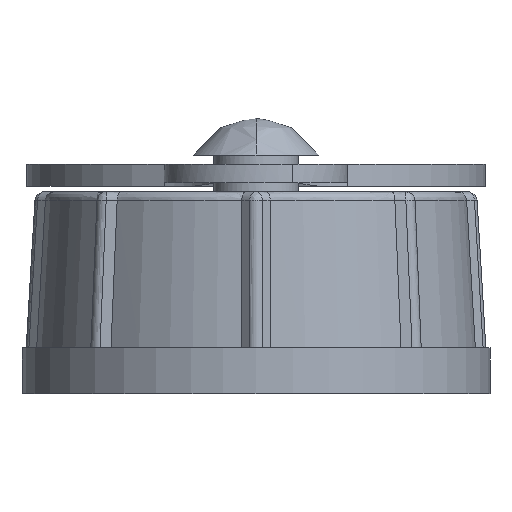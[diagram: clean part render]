
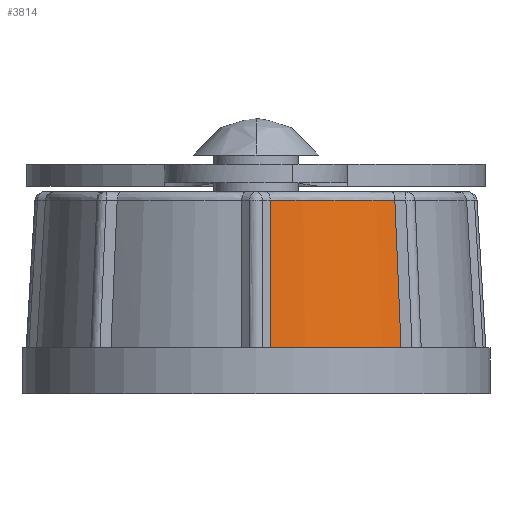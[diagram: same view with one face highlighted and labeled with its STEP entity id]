
A CAD part, left-side view. The second image highlights one B-rep face of the part: STEP entity #3814.
In plain terms, the highlighted free-form (B-spline) face has degree [1, 2] with [2, 3] control points.
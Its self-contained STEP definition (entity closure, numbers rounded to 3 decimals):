
#1042=CARTESIAN_POINT('',(-8.998,-7.901,2.5));
#1043=VERTEX_POINT('',#1042);
#1053=CARTESIAN_POINT('',(-11.95,-0.776,2.5));
#1054=VERTEX_POINT('',#1053);
#1055=CARTESIAN_POINT('',(-11.95,-0.776,2.5));
#1056=CARTESIAN_POINT('',(-11.899,-1.559,2.5));
#1057=CARTESIAN_POINT('',(-11.784,-2.339,2.5));
#1058=CARTESIAN_POINT('',(-11.605,-3.107,2.5));
#1059=CARTESIAN_POINT('',(-11.123,-4.607,2.5));
#1060=CARTESIAN_POINT('',(-10.403,-6.009,2.5));
#1061=CARTESIAN_POINT('',(-9.986,-6.679,2.5));
#1062=CARTESIAN_POINT('',(-9.516,-7.311,2.5));
#1063=CARTESIAN_POINT('',(-8.998,-7.901,2.5));
#1064=B_SPLINE_CURVE_WITH_KNOTS('',5,(#1055,#1056,#1057,#1058,#1059,#1060,#1061,#1062,#1063),.UNSPECIFIED.,.F.,.U.,(6,3,6),(0.,0.328,0.656),.UNSPECIFIED.);
#1065=EDGE_CURVE('',#1054,#1043,#1064,.T.);
#1495=CARTESIAN_POINT('',(-8.664,-7.565,10.525));
#1496=VERTEX_POINT('',#1495);
#1613=CARTESIAN_POINT('',(-11.476,-0.777,10.525));
#1614=VERTEX_POINT('',#1613);
#1680=CARTESIAN_POINT('',(-11.475,-0.777,10.529));
#1681=CARTESIAN_POINT('',(-11.425,-1.523,10.529));
#1682=CARTESIAN_POINT('',(-11.314,-2.265,10.529));
#1683=CARTESIAN_POINT('',(-11.142,-2.996,10.529));
#1684=CARTESIAN_POINT('',(-10.682,-4.425,10.529));
#1685=CARTESIAN_POINT('',(-9.997,-5.76,10.529));
#1686=CARTESIAN_POINT('',(-9.602,-6.398,10.529));
#1687=CARTESIAN_POINT('',(-9.155,-7.002,10.529));
#1688=CARTESIAN_POINT('',(-8.664,-7.565,10.529));
#1689=B_SPLINE_CURVE_WITH_KNOTS('',5,(#1680,#1681,#1682,#1683,#1684,#1685,#1686,#1687,#1688),.UNSPECIFIED.,.F.,.U.,(6,3,6),(0.,0.325,0.65),.UNSPECIFIED.);
#1690=EDGE_CURVE('',#1614,#1496,#1689,.T.);
#3791=CARTESIAN_POINT('',(-11.477,-0.745,10.529));
#3792=CARTESIAN_POINT('',(-11.224,-4.649,10.529));
#3793=CARTESIAN_POINT('',(-8.643,-7.589,10.529));
#3794=CARTESIAN_POINT('',(-11.95,-0.776,2.5));
#3795=CARTESIAN_POINT('',(-11.686,-4.84,2.5));
#3796=CARTESIAN_POINT('',(-8.998,-7.901,2.5));
#3797=(BOUNDED_SURFACE()B_SPLINE_SURFACE(1,2,((#3791,#3792,#3793),(#3794,#3795,#3796)),.GENERALISED_CONE.,.F.,.F.,.U.)B_SPLINE_SURFACE_WITH_KNOTS((2,2),(3,3),(0.,8.043),(0.,7.697),.UNSPECIFIED.)GEOMETRIC_REPRESENTATION_ITEM()RATIONAL_B_SPLINE_SURFACE(((0.975,0.864,0.854),(0.975,0.864,0.854)))REPRESENTATION_ITEM('')SURFACE());
#3798=ORIENTED_EDGE('',*,*,#1690,.F.);
#3799=CARTESIAN_POINT('',(-11.95,-0.776,2.5));
#3800=CARTESIAN_POINT('',(-11.708,-0.776,6.598));
#3801=CARTESIAN_POINT('',(-11.476,-0.777,10.521));
#3802=(BOUNDED_CURVE()B_SPLINE_CURVE(2,(#3799,#3800,#3801),.UNSPECIFIED.,.F.,.U.)B_SPLINE_CURVE_WITH_KNOTS((3,3),(0.,8.024),.UNSPECIFIED.)CURVE()GEOMETRIC_REPRESENTATION_ITEM()RATIONAL_B_SPLINE_CURVE((1.,1.,1.))REPRESENTATION_ITEM(''));
#3803=EDGE_CURVE('',#1054,#1614,#3802,.T.);
#3804=ORIENTED_EDGE('',*,*,#3803,.F.);
#3805=ORIENTED_EDGE('',*,*,#1065,.T.);
#3806=CARTESIAN_POINT('',(-8.664,-7.565,10.521));
#3807=CARTESIAN_POINT('',(-8.828,-7.73,6.598));
#3808=CARTESIAN_POINT('',(-8.998,-7.901,2.5));
#3809=(BOUNDED_CURVE()B_SPLINE_CURVE(2,(#3806,#3807,#3808),.UNSPECIFIED.,.F.,.U.)B_SPLINE_CURVE_WITH_KNOTS((3,3),(0.,8.024),.UNSPECIFIED.)CURVE()GEOMETRIC_REPRESENTATION_ITEM()RATIONAL_B_SPLINE_CURVE((1.,1.,1.))REPRESENTATION_ITEM(''));
#3810=EDGE_CURVE('',#1496,#1043,#3809,.T.);
#3811=ORIENTED_EDGE('',*,*,#3810,.F.);
#3812=EDGE_LOOP('',(#3798,#3804,#3805,#3811));
#3813=FACE_OUTER_BOUND('',#3812,.T.);
#3814=ADVANCED_FACE('',(#3813),#3797,.T.);
